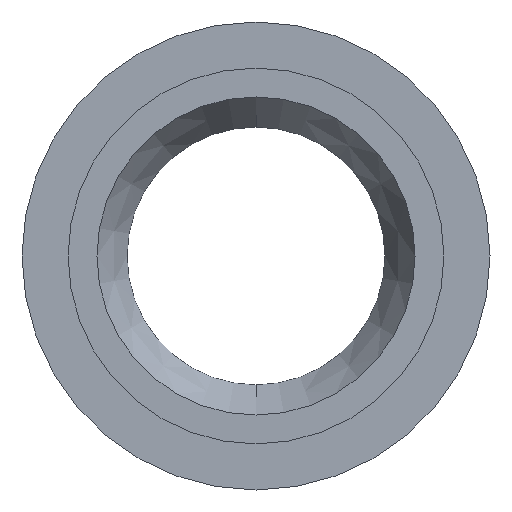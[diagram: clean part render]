
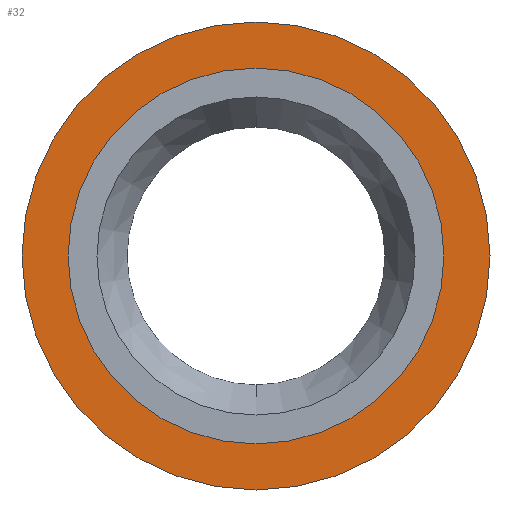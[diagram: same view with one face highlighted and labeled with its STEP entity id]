
A CAD part, front view. The second image highlights one B-rep face of the part: STEP entity #32.
In plain terms, the highlighted planar face has unit normal (0, -1, 0).
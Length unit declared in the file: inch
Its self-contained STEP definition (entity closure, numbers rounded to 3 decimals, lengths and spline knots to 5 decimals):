
#11 = EDGE_CURVE ( 'NONE', #221, #49, #108, .T. ) ;
#12 = EDGE_CURVE ( 'NONE', #229, #31, #324, .T. ) ;
#21 = CIRCLE ( 'NONE', #240, 0.755 ) ;
#31 = VERTEX_POINT ( 'NONE', #222 ) ;
#32 = ADVANCED_FACE ( 'NONE', ( #251, #318 ), #141, .F. ) ;
#48 = DIRECTION ( 'NONE',  ( 0., 0., 1. ) ) ;
#49 = VERTEX_POINT ( 'NONE', #137 ) ;
#59 = CIRCLE ( 'NONE', #79, 0.94 ) ;
#63 = CARTESIAN_POINT ( 'NONE',  ( 0., 0.15, 0. ) ) ;
#71 = CARTESIAN_POINT ( 'NONE',  ( 0., 0.15, 0. ) ) ;
#72 = DIRECTION ( 'NONE',  ( 0., 1., 0. ) ) ;
#75 = CARTESIAN_POINT ( 'NONE',  ( 0., 0.15, 0. ) ) ;
#76 = CARTESIAN_POINT ( 'NONE',  ( 0., 0.15, -0.94 ) ) ;
#79 = AXIS2_PLACEMENT_3D ( 'NONE', #63, #269, #98 ) ;
#88 = AXIS2_PLACEMENT_3D ( 'NONE', #71, #191, #330 ) ;
#98 = DIRECTION ( 'NONE',  ( 0., 0., 1. ) ) ;
#106 = CARTESIAN_POINT ( 'NONE',  ( 0., 0.15, -0.755 ) ) ;
#108 = CIRCLE ( 'NONE', #139, 0.755 ) ;
#109 = DIRECTION ( 'NONE',  ( 0., 0., 1. ) ) ;
#126 = ORIENTED_EDGE ( 'NONE', *, *, #11, .T. ) ;
#137 = CARTESIAN_POINT ( 'NONE',  ( 0., 0.15, 0.755 ) ) ;
#139 = AXIS2_PLACEMENT_3D ( 'NONE', #366, #228, #48 ) ;
#141 = PLANE ( 'NONE',  #88 ) ;
#144 = EDGE_LOOP ( 'NONE', ( #126, #338 ) ) ;
#149 = ORIENTED_EDGE ( 'NONE', *, *, #374, .F. ) ;
#150 = ORIENTED_EDGE ( 'NONE', *, *, #12, .F. ) ;
#155 = AXIS2_PLACEMENT_3D ( 'NONE', #75, #252, #109 ) ;
#191 = DIRECTION ( 'NONE',  ( 0., 1., 0. ) ) ;
#195 = EDGE_CURVE ( 'NONE', #49, #221, #21, .T. ) ;
#221 = VERTEX_POINT ( 'NONE', #106 ) ;
#222 = CARTESIAN_POINT ( 'NONE',  ( 0., 0.15, 0.94 ) ) ;
#228 = DIRECTION ( 'NONE',  ( 0., 1., 0. ) ) ;
#229 = VERTEX_POINT ( 'NONE', #76 ) ;
#240 = AXIS2_PLACEMENT_3D ( 'NONE', #249, #72, #276 ) ;
#249 = CARTESIAN_POINT ( 'NONE',  ( 0., 0.15, 0. ) ) ;
#251 = FACE_BOUND ( 'NONE', #144, .T. ) ;
#252 = DIRECTION ( 'NONE',  ( 0., 1., 0. ) ) ;
#269 = DIRECTION ( 'NONE',  ( 0., 1., 0. ) ) ;
#276 = DIRECTION ( 'NONE',  ( 0., 0., 1. ) ) ;
#318 = FACE_OUTER_BOUND ( 'NONE', #369, .T. ) ;
#324 = CIRCLE ( 'NONE', #155, 0.94 ) ;
#330 = DIRECTION ( 'NONE',  ( 0., 0., 1. ) ) ;
#338 = ORIENTED_EDGE ( 'NONE', *, *, #195, .T. ) ;
#366 = CARTESIAN_POINT ( 'NONE',  ( 0., 0.15, 0. ) ) ;
#369 = EDGE_LOOP ( 'NONE', ( #150, #149 ) ) ;
#374 = EDGE_CURVE ( 'NONE', #31, #229, #59, .T. ) ;
